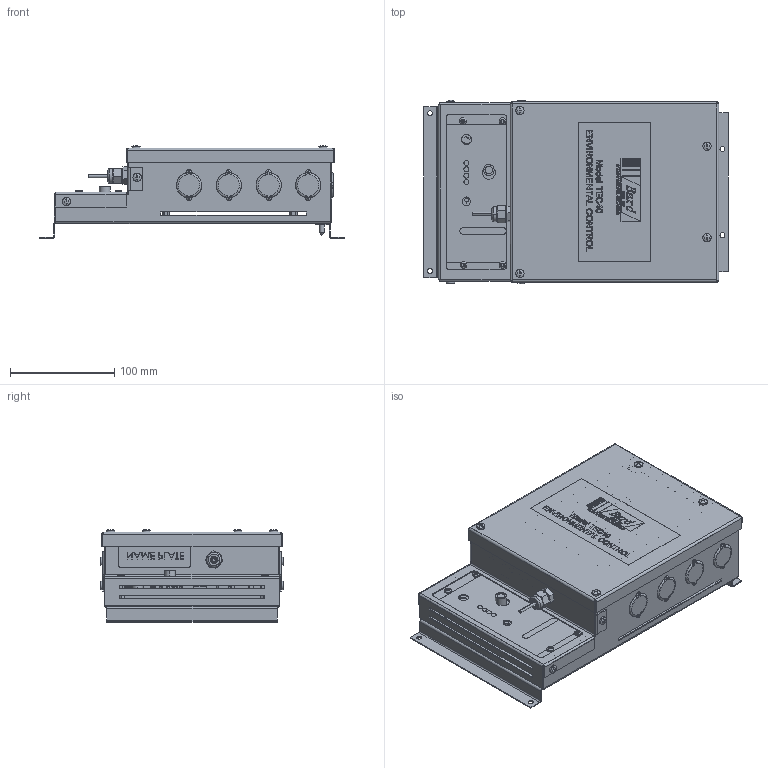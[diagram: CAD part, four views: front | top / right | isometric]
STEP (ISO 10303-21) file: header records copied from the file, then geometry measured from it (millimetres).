
FILE_DESCRIPTION (( 'STEP AP203' ), '1' );
FILE_NAME ('TEC40.STEP', '2016-07-28T14:08:44', ( 'BMC' ), ( 'Bard Manufacturing Co., Inc.' ), 'SwSTEP 2.0', 'SolidWorks 2016', '' );
FILE_SCHEMA (( 'CONFIG_CONTROL_DESIGN' ));
Length unit declared in the file: inch
Products named in the file (52): TEC40; 8611-099 b; 8612-018, knob1; 8612-018, nut_7; 8612-018, screw1_7; 142-078; 1012-065, panhead screw_8; 8611-099 a; 116-246; 8612-018, nut_8; 8612-018, screw1_8; 140-283; 1012-065, panhead screw_9; 1012-065, panhead screw; 8612-018, jumper; 8612-018, nut_9; 8612-018, nut; 8612-018, screw1; 1012-065, panhead screw_10; 1012-065, panhead screw_2; 8612-018, jumper_2; 8612-018, nut_10; 8612-018, nut_2; 8612-018, screw1_2; serial plate; 1012-065, panhead screw_3; 8612-018, jumper_3; 8612-018, nut_11; 8612-018, nut_3; 8612-018, screw1_3; 7960-477; 1012-065, panhead screw_4; 8612-018, jumper_4; 8612-018, nut_12; 8612-018, nut_4; 8612-018, screw1_4; 7961-600; 1012-065, panhead screw_5; 8612-018, jumper_5; SENSOR WIRE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
Assembly tree (51 placements, depth 2):
  TEC40
    SENSOR WIRE
    8611-099 c
    8611-099 b
    8611-099 a
    1012-065, panhead screw
    1012-065, panhead screw_2
    1012-065, panhead screw_3
    1012-065, panhead screw_4
    1012-065, panhead screw_5
    1012-065, panhead screw_6
    1012-065, panhead screw_7
    1012-065, panhead screw_8
    1012-065, panhead screw_9
    1012-065, panhead screw_10
    serial plate
    7960-477
    7961-600
    152-340
    102-448
    142-078
    140-283
    8612-018, screw1
    8612-018, screw1_2
    8612-018, screw1_3
    8612-018, screw1_4
    8612-018, screw1_5
    8612-018, screw1_6
    8612-018, screw1_7
    8612-018, screw1_8
    8612-018, nut
    8612-018, nut_2
    8612-018, nut_3
    8612-018, nut_4
    8612-018, nut_5
    8612-018, nut_6
    8612-018, nut_7
    8612-018, nut_8
    8612-018, nut_9
    8612-018, nut_10
    8612-018, nut_11
    8612-018, nut_12
    7961-594
    8612-018, knob2
    8612-018, knob1
    116-246
    8612-018, jumper
    8612-018, jumper_2
    8612-018, jumper_3
    8612-018, jumper_4
    8612-018, jumper_5
    8612-018
Bounding box: 292.15 x 176.32 x 89.13 mm (x, y, z)
Surface area: 513385.5 mm2 (no closed solid volume)
Topology: 0 solids, 51 shells, 3790 faces, 9781 edges, 6352 vertices
Faces by surface type: plane 2146, bspline 1013, cylinder 532, cone 99
Entity records: 191628 total; most frequent: CARTESIAN_POINT 98412, ORIENTED_EDGE 19462, DIRECTION 15785, EDGE_CURVE 9737, VERTEX_POINT 6352, VECTOR 6111, LINE 6111, AXIS2_PLACEMENT_3D 4837
